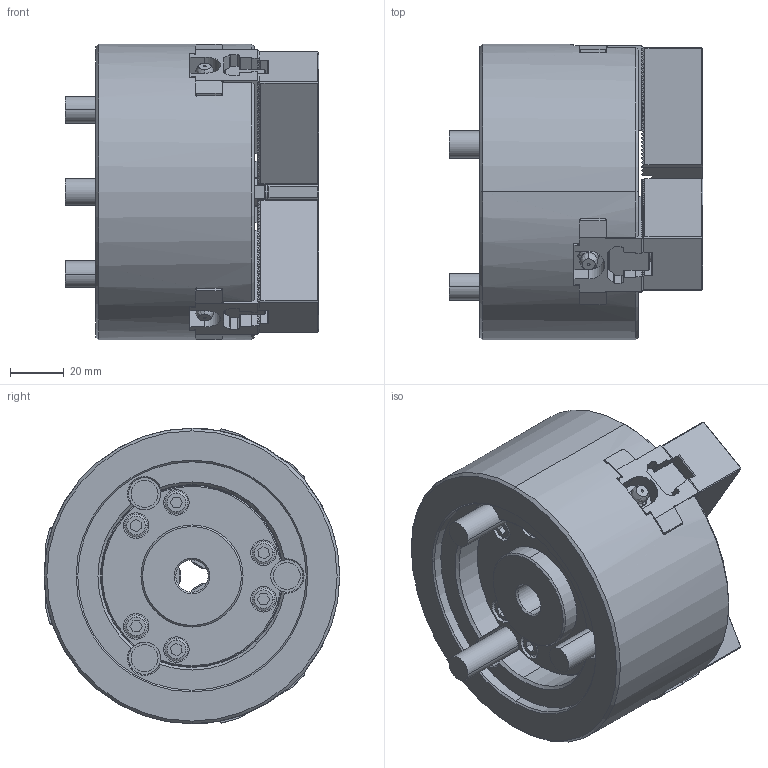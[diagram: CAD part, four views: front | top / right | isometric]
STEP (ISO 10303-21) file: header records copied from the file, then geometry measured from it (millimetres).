
FILE_DESCRIPTION (( 'STEP AP214' ), '1' );
FILE_NAME ('B-204_61P325057-8_UC.STEP', '2020-09-25T04:22:28', ( '' ), ( '' ), 'SwSTEP 2.0', 'SolidWorks 2017', '' );
FILE_SCHEMA (( 'AUTOMOTIVE_DESIGN' ));
Length unit declared in the file: millimetre
Products named in the file (5): Bアナツキ M8×20_1; 61P422112-4_SOFT JAW; 61P422113-1_T-NUT; B-204_BASE^61P325040-9_ASSY; B-204_61P325057-8_UC
Assembly tree (13 placements, depth 2):
  B-204_61P325057-8_UC
    B-204_BASE^61P325040-9_ASSY
    61P422113-1_T-NUT  x3
    61P422112-4_SOFT JAW  x3
    Bアナツキ M8×20_1  x6
Bounding box: 94.5 x 110 x 110 mm (x, y, z)
Volume: 542221.9 mm3; surface area: 110196.2 mm2
Topology: 13 solids, 13 shells, 3097 faces, 8793 edges, 5807 vertices
Faces by surface type: plane 2147, cylinder 705, bspline 151, cone 94
Entity records: 83672 total; most frequent: CARTESIAN_POINT 20388, ORIENTED_EDGE 13134, DIRECTION 11152, EDGE_CURVE 6567, LINE 5006, VECTOR 5006, VERTEX_POINT 4339, AXIS2_PLACEMENT_3D 3073
